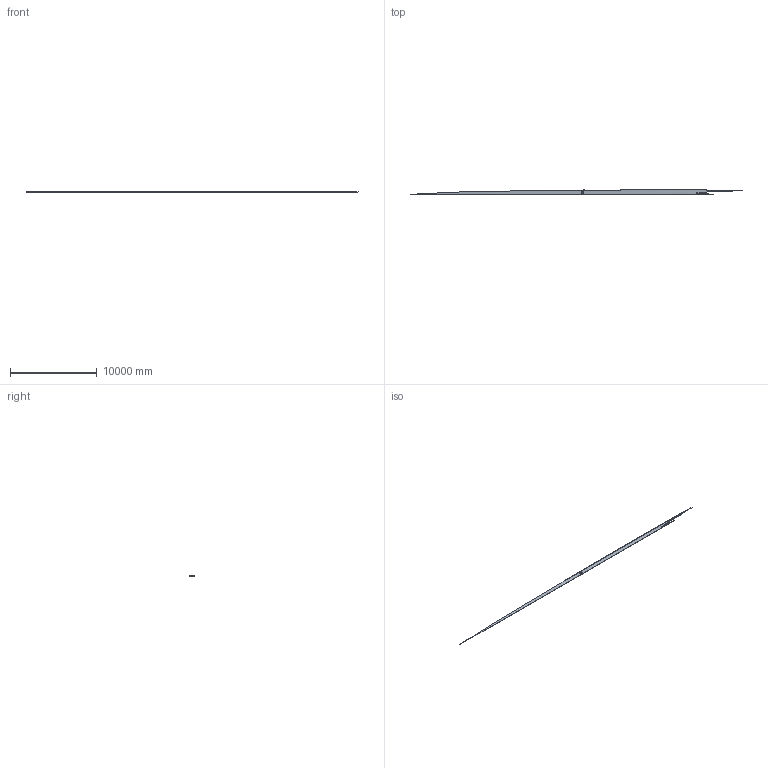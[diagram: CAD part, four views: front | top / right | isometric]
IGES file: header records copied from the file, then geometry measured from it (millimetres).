
Global section: file name: D:\UusSuuruim\variant06\Suuruim16logo.igs; native system: NX V7.0; preprocessor: SIEMENS PLM Software NX 7.0; date: 20100226.191141; units: millimetre
Bounding box: 38330.55 x 534.96 x 75.06 mm (x, y, z)
Surface area: 30615344.4 mm2 (no closed solid volume)
Topology: 0 solids, 0 shells, 1261 faces, 11365 edges, 11335 vertices
Faces by surface type: bspline 1230, offset 31
